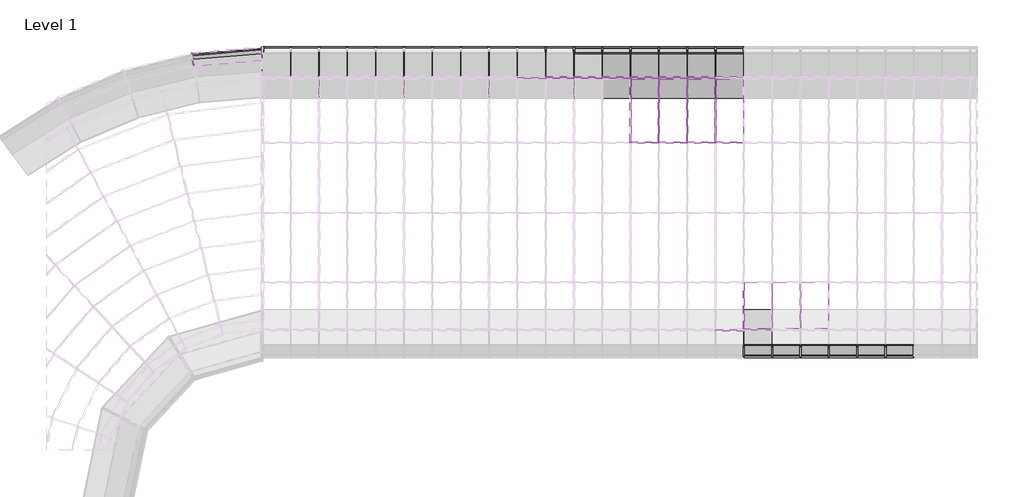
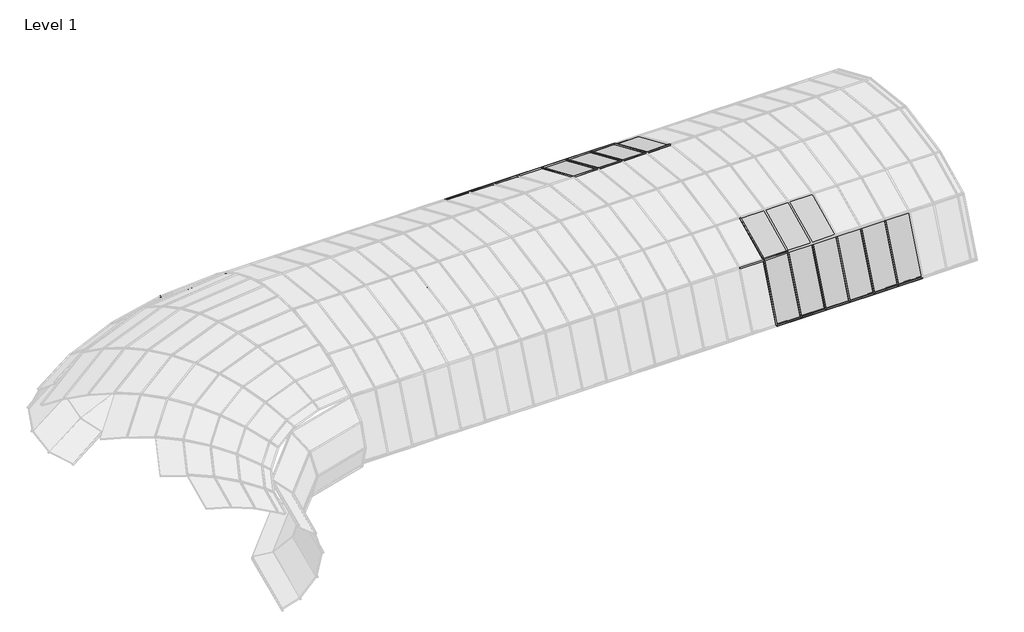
# One storey, part 20 of 23: 91 members, 27 plates.
"""IFC4 building model written with IfcOpenShell, lengths in millimetres."""

from ifc_helpers import new_model, si_unit, origin, place, context, project, spatial, transform, mapped, element, save
from components import member_11ccf896, member_68981e21, member_3e1f1dd8, member_391bee44, member_a479caf8, member_a09e3960, member_0f8f75f6, member_42213d33, member_14e241b9, member_67cfadff, member_9fdc8c74, system_panel_glazed_51f493bd, system_panel_glazed_a1f64e1d, system_panel_glazed_3957fabc, system_panel_glazed_b572a165, system_panel_glazed_7de0f96e

model = new_model("IFC4")

# Units and contexts
model_context = context("Model", 3, world=origin())
ifc_project = project(units=[si_unit("LENGTHUNIT", "METRE", prefix="MILLI")], contexts=[model_context])

# Site, building, storey
site = spatial("IfcSite", under=ifc_project)
building = spatial("IfcBuilding", under=site)
storey = spatial("IfcBuildingStorey", under=building, Name="Level 1", Elevation=0.0)

# Members
placement = place(None, origin())
member_shape = member_11ccf896(model_context)
element("IfcMember", 1, ObjectType="Rectangular Mullion : 1\" Square", at=placement, inside=storey, context=model_context, shape_type="MappedRepresentation", body=[
    mapped(member_shape, transform((-11421.4484397, 8068.4801793, 1232.5089476), x_axis=(0.01071900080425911, -0.13353091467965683, 0.9909866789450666), y_axis=(-0.07929494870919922, 0.9878091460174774, 0.1339604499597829), z_axis=(-0.9967935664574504, -0.08001616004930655, 0.0))),
])
member_2_shape = member_68981e21(model_context)
element("IfcMember", 2, ObjectType="Rectangular Mullion : 1\" Square", at=placement, inside=storey, context=model_context, shape_type="MappedRepresentation", body=[
    mapped(member_2_shape, transform((450.2500186, 2539.8807303, 0.0), x_axis=(0.0, 0.8307182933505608, -0.5566930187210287), y_axis=(0.0, -0.5566930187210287, -0.8307182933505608), z_axis=(-1.0, 0.0, 0.0))),
])
element("IfcMember", 3, ObjectType="Rectangular Mullion : 1\" Square", at=placement, inside=storey, context=model_context, shape_type="MappedRepresentation", body=[
    mapped(member_2_shape, transform((-3207.3499814, 7543.2525753, 2085.6089632), x_axis=(0.0, 0.9167487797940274, -0.39946423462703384), y_axis=(0.0, 0.39946423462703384, 0.9167487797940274), z_axis=(1.0, 0.0, 0.0))),
])
element("IfcMember", 4, ObjectType="Rectangular Mullion : 1\" Square", at=placement, inside=storey, context=model_context, shape_type="MappedRepresentation", body=[
    mapped(member_2_shape, transform((-2597.7499814, 7543.2525753, 2085.6089632), x_axis=(0.0, 0.9167487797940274, -0.39946423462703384), y_axis=(0.0, 0.39946423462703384, 0.9167487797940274), z_axis=(1.0, 0.0, 0.0))),
])
element("IfcMember", 5, ObjectType="Rectangular Mullion : 1\" Square", at=placement, inside=storey, context=model_context, shape_type="MappedRepresentation", body=[
    mapped(member_2_shape, transform((-1988.1499814, 7543.2525753, 2085.6089632), x_axis=(0.0, 0.9167487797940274, -0.39946423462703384), y_axis=(0.0, 0.39946423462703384, 0.9167487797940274), z_axis=(1.0, 0.0, 0.0))),
])
element("IfcMember", 6, ObjectType="Rectangular Mullion : 1\" Square", at=placement, inside=storey, context=model_context, shape_type="MappedRepresentation", body=[
    mapped(member_2_shape, transform((-1378.5499814, 7543.2525753, 2085.6089632), x_axis=(0.0, 0.9167487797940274, -0.39946423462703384), y_axis=(0.0, 0.39946423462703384, 0.9167487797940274), z_axis=(1.0, 0.0, 0.0))),
])
element("IfcMember", 7, ObjectType="Rectangular Mullion : 1\" Square", at=placement, inside=storey, context=model_context, shape_type="MappedRepresentation", body=[
    mapped(member_2_shape, transform((-768.9499814, 7543.2525753, 2085.6089632), x_axis=(0.0, 0.9167487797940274, -0.39946423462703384), y_axis=(0.0, 0.39946423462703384, 0.9167487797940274), z_axis=(1.0, 0.0, 0.0))),
])
element("IfcMember", 8, ObjectType="Rectangular Mullion : 1\" Square", at=placement, inside=storey, context=model_context, shape_type="MappedRepresentation", body=[
    mapped(member_2_shape, transform((-159.3499814, 7543.2525753, 2085.6089632), x_axis=(0.0, 0.9167487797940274, -0.39946423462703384), y_axis=(0.0, 0.39946423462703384, 0.9167487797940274), z_axis=(1.0, 0.0, 0.0))),
])
element("IfcMember", 9, ObjectType="Rectangular Mullion : 1\" Square", at=placement, inside=storey, context=model_context, shape_type="MappedRepresentation", body=[
    mapped(member_2_shape, transform((450.2500186, 2108.5088854, 2085.6089632), x_axis=(0.0, -0.9009025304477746, -0.4340214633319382), y_axis=(0.0, -0.4340214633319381, 0.9009025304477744), z_axis=(-1.0, 0.0, 0.0))),
])
element("IfcMember", 10, ObjectType="Rectangular Mullion : 1\" Square", at=placement, inside=storey, context=model_context, shape_type="MappedRepresentation", body=[
    mapped(member_2_shape, transform((-3816.9499814, 7543.2525753, 2085.6089632), x_axis=(0.0, 0.9167487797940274, -0.3994642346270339), y_axis=(0.0, 0.3994642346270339, 0.9167487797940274), z_axis=(1.0, 0.0, 0.0))),
])
element("IfcMember", 11, ObjectType="Rectangular Mullion : 1\" Square", at=placement, inside=storey, context=model_context, shape_type="MappedRepresentation", body=[
    mapped(member_2_shape, transform((-1378.5499814, 7111.8807303, 0.0), x_axis=(0.0, -0.713412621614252, -0.7007441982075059), y_axis=(0.0, 0.7007441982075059, -0.713412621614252), z_axis=(1.0, 0.0, 0.0))),
])
element("IfcMember", 12, ObjectType="Rectangular Mullion : 1\" Square", at=placement, inside=storey, context=model_context, shape_type="MappedRepresentation", body=[
    mapped(member_2_shape, transform((-768.9499814, 7111.8807303, 0.0), x_axis=(0.0, -0.713412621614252, -0.7007441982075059), y_axis=(0.0, 0.7007441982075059, -0.713412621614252), z_axis=(1.0, 0.0, 0.0))),
])
element("IfcMember", 13, ObjectType="Rectangular Mullion : 1\" Square", at=placement, inside=storey, context=model_context, shape_type="MappedRepresentation", body=[
    mapped(member_2_shape, transform((-159.3499814, 7111.8807303, 0.0), x_axis=(0.0, -0.713412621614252, -0.7007441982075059), y_axis=(0.0, 0.7007441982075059, -0.713412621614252), z_axis=(1.0, 0.0, 0.0))),
])
element("IfcMember", 14, ObjectType="Rectangular Mullion : 1\" Square", at=placement, inside=storey, context=model_context, shape_type="MappedRepresentation", body=[
    mapped(member_2_shape, transform((-3816.9499814, 7111.8807303, 0.0), x_axis=(0.0, -0.7134126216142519, -0.700744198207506), y_axis=(0.0, 0.700744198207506, -0.7134126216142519), z_axis=(1.0, 0.0, 0.0))),
])
element("IfcMember", 15, ObjectType="Rectangular Mullion : 1\" Square", at=placement, inside=storey, context=model_context, shape_type="MappedRepresentation", body=[
    mapped(member_2_shape, transform((-3207.3499814, 7111.8807303, 0.0), x_axis=(0.0, -0.713412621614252, -0.7007441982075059), y_axis=(0.0, 0.7007441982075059, -0.713412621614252), z_axis=(1.0, 0.0, 0.0))),
])
element("IfcMember", 16, ObjectType="Rectangular Mullion : 1\" Square", at=placement, inside=storey, context=model_context, shape_type="MappedRepresentation", body=[
    mapped(member_2_shape, transform((-2597.7499814, 7111.8807303, 0.0), x_axis=(0.0, -0.713412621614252, -0.7007441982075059), y_axis=(0.0, 0.7007441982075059, -0.713412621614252), z_axis=(1.0, 0.0, 0.0))),
])
element("IfcMember", 17, ObjectType="Rectangular Mullion : 1\" Square", at=placement, inside=storey, context=model_context, shape_type="MappedRepresentation", body=[
    mapped(member_2_shape, transform((-1988.1499814, 7111.8807303, 0.0), x_axis=(0.0, -0.713412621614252, -0.7007441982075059), y_axis=(0.0, 0.7007441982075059, -0.713412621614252), z_axis=(1.0, 0.0, 0.0))),
])
member_3_shape = member_3e1f1dd8(model_context)
element("IfcMember", 18, ObjectType="Rectangular Mullion : 1\" Square", at=placement, inside=storey, context=model_context, shape_type="MappedRepresentation", body=[
    mapped(member_3_shape, transform((450.2500186, 1534.1192339, 673.9955146), x_axis=(0.0, 0.38018576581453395, -0.9249101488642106), y_axis=(0.0, -0.9249101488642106, -0.38018576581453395), z_axis=(-1.0, 0.0, 0.0))),
])
element("IfcMember", 19, ObjectType="Rectangular Mullion : 1\" Square", at=placement, inside=storey, context=model_context, shape_type="MappedRepresentation", body=[
    mapped(member_3_shape, transform((1059.8500186, 1534.1192339, 673.9955146), x_axis=(0.0, 0.38018576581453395, -0.9249101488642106), y_axis=(0.0, -0.9249101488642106, -0.38018576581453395), z_axis=(-1.0, 0.0, 0.0))),
])
element("IfcMember", 20, ObjectType="Rectangular Mullion : 1\" Square", at=placement, inside=storey, context=model_context, shape_type="MappedRepresentation", body=[
    mapped(member_3_shape, transform((1669.4500186, 1534.1192339, 673.9955146), x_axis=(0.0, 0.38018576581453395, -0.9249101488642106), y_axis=(0.0, -0.9249101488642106, -0.38018576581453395), z_axis=(-1.0, 0.0, 0.0))),
])
element("IfcMember", 21, ObjectType="Rectangular Mullion : 1\" Square", at=placement, inside=storey, context=model_context, shape_type="MappedRepresentation", body=[
    mapped(member_3_shape, transform((2279.0500186, 1534.1192339, 673.9955146), x_axis=(0.0, 0.38018576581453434, -0.9249101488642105), y_axis=(0.0, -0.9249101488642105, -0.38018576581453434), z_axis=(-1.0, 0.0, 0.0))),
])
element("IfcMember", 22, ObjectType="Rectangular Mullion : 1\" Square", at=placement, inside=storey, context=model_context, shape_type="MappedRepresentation", body=[
    mapped(member_3_shape, transform((2888.6500186, 1534.1192339, 673.9955146), x_axis=(0.0, 0.38018576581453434, -0.9249101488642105), y_axis=(0.0, -0.9249101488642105, -0.38018576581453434), z_axis=(-1.0, 0.0, 0.0))),
])
element("IfcMember", 23, ObjectType="Rectangular Mullion : 1\" Square", at=placement, inside=storey, context=model_context, shape_type="MappedRepresentation", body=[
    mapped(member_3_shape, transform((3498.2500186, 1534.1192339, 673.9955146), x_axis=(0.0, 0.38018576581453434, -0.9249101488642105), y_axis=(0.0, -0.9249101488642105, -0.38018576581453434), z_axis=(-1.0, 0.0, 0.0))),
])
element("IfcMember", 24, ObjectType="Rectangular Mullion : 1\" Square", at=placement, inside=storey, context=model_context, shape_type="MappedRepresentation", body=[
    mapped(member_2_shape, transform((450.2500186, 2108.5088854, 2085.6089632), x_axis=(0.0, 0.37689609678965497, 0.9262555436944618), y_axis=(0.0, -0.9262555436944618, 0.37689609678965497), z_axis=(1.0, 0.0, 0.0))),
])
element("IfcMember", 25, ObjectType="Rectangular Mullion : 1\" Square", at=placement, inside=storey, context=model_context, shape_type="MappedRepresentation", body=[
    mapped(member_2_shape, transform((-3816.9499814, 7543.2525753, 2085.6089632), x_axis=(0.0, -0.5417212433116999, 0.8405582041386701), y_axis=(0.0, 0.8405582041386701, 0.5417212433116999), z_axis=(-1.0, 0.0, 0.0))),
])
element("IfcMember", 26, ObjectType="Rectangular Mullion : 1\" Square", at=placement, inside=storey, context=model_context, shape_type="MappedRepresentation", body=[
    mapped(member_2_shape, transform((-3207.3499814, 7543.2525753, 2085.6089632), x_axis=(0.0, -0.5417212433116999, 0.8405582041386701), y_axis=(0.0, 0.8405582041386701, 0.5417212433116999), z_axis=(-1.0, 0.0, 0.0))),
])
element("IfcMember", 27, ObjectType="Rectangular Mullion : 1\" Square", at=placement, inside=storey, context=model_context, shape_type="MappedRepresentation", body=[
    mapped(member_2_shape, transform((-2597.7499814, 7543.2525753, 2085.6089632), x_axis=(0.0, -0.5417212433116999, 0.8405582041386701), y_axis=(0.0, 0.8405582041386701, 0.5417212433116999), z_axis=(-1.0, 0.0, 0.0))),
])
element("IfcMember", 28, ObjectType="Rectangular Mullion : 1\" Square", at=placement, inside=storey, context=model_context, shape_type="MappedRepresentation", body=[
    mapped(member_2_shape, transform((-1988.1499814, 7543.2525753, 2085.6089632), x_axis=(0.0, -0.5417212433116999, 0.8405582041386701), y_axis=(0.0, 0.8405582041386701, 0.5417212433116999), z_axis=(-1.0, 0.0, 0.0))),
])
element("IfcMember", 29, ObjectType="Rectangular Mullion : 1\" Square", at=placement, inside=storey, context=model_context, shape_type="MappedRepresentation", body=[
    mapped(member_2_shape, transform((-1378.5499814, 7543.2525753, 2085.6089632), x_axis=(0.0, -0.5417212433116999, 0.8405582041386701), y_axis=(0.0, 0.8405582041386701, 0.5417212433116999), z_axis=(-1.0, 0.0, 0.0))),
])
element("IfcMember", 30, ObjectType="Rectangular Mullion : 1\" Square", at=placement, inside=storey, context=model_context, shape_type="MappedRepresentation", body=[
    mapped(member_2_shape, transform((-768.9499814, 7543.2525753, 2085.6089632), x_axis=(0.0, -0.5417212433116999, 0.8405582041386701), y_axis=(0.0, 0.8405582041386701, 0.5417212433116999), z_axis=(-1.0, 0.0, 0.0))),
])
element("IfcMember", 31, ObjectType="Rectangular Mullion : 1\" Square", at=placement, inside=storey, context=model_context, shape_type="MappedRepresentation", body=[
    mapped(member_2_shape, transform((-159.3499814, 7543.2525753, 2085.6089632), x_axis=(0.0, -0.5417212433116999, 0.8405582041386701), y_axis=(0.0, 0.8405582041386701, 0.5417212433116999), z_axis=(-1.0, 0.0, 0.0))),
])
element("IfcMember", 32, ObjectType="Rectangular Mullion : 1\" Square", at=placement, inside=storey, context=model_context, shape_type="MappedRepresentation", body=[
    mapped(member_3_shape, transform((-1988.1499814, 6146.1274349, 2694.3924567), x_axis=(0.0, -0.9660596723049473, 0.25831900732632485), y_axis=(0.0, 0.25831900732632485, 0.9660596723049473), z_axis=(-1.0, 0.0, 0.0))),
])
element("IfcMember", 33, ObjectType="Rectangular Mullion : 1\" Square", at=placement, inside=storey, context=model_context, shape_type="MappedRepresentation", body=[
    mapped(member_3_shape, transform((-1378.5499814, 6146.1274349, 2694.3924567), x_axis=(0.0, -0.9660596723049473, 0.25831900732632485), y_axis=(0.0, 0.25831900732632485, 0.9660596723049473), z_axis=(-1.0, 0.0, 0.0))),
])
element("IfcMember", 34, ObjectType="Rectangular Mullion : 1\" Square", at=placement, inside=storey, context=model_context, shape_type="MappedRepresentation", body=[
    mapped(member_3_shape, transform((-768.9499814, 6146.1274349, 2694.3924567), x_axis=(0.0, -0.9660596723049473, 0.25831900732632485), y_axis=(0.0, 0.25831900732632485, 0.9660596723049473), z_axis=(-1.0, 0.0, 0.0))),
])
element("IfcMember", 35, ObjectType="Rectangular Mullion : 1\" Square", at=placement, inside=storey, context=model_context, shape_type="MappedRepresentation", body=[
    mapped(member_3_shape, transform((-159.3499814, 6146.1274349, 2694.3924567), x_axis=(0.0, -0.9660596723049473, 0.25831900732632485), y_axis=(0.0, 0.25831900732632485, 0.9660596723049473), z_axis=(-1.0, 0.0, 0.0))),
])
element("IfcMember", 36, ObjectType="Rectangular Mullion : 1\" Square", at=placement, inside=storey, context=model_context, shape_type="MappedRepresentation", body=[
    mapped(member_3_shape, transform((-9303.3499814, 8199.1215657, 1067.9341581), x_axis=(0.0, 0.017915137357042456, 0.9998395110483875), y_axis=(0.0, 0.9998395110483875, -0.017915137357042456), z_axis=(-1.0, 0.0, 0.0))),
])
element("IfcMember", 37, ObjectType="Rectangular Mullion : 1\" Square", at=placement, inside=storey, context=model_context, shape_type="MappedRepresentation", body=[
    mapped(member_3_shape, transform((-8693.7499814, 8199.1215657, 1067.9341581), x_axis=(0.0, 0.017915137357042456, 0.9998395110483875), y_axis=(0.0, 0.9998395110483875, -0.017915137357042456), z_axis=(-1.0, 0.0, 0.0))),
])
element("IfcMember", 38, ObjectType="Rectangular Mullion : 1\" Square", at=placement, inside=storey, context=model_context, shape_type="MappedRepresentation", body=[
    mapped(member_3_shape, transform((-8084.1499814, 8199.1215657, 1067.9341581), x_axis=(0.0, 0.017915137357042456, 0.9998395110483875), y_axis=(0.0, 0.9998395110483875, -0.017915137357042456), z_axis=(-1.0, 0.0, 0.0))),
])
element("IfcMember", 39, ObjectType="Rectangular Mullion : 1\" Square", at=placement, inside=storey, context=model_context, shape_type="MappedRepresentation", body=[
    mapped(member_3_shape, transform((-7474.5499814, 8199.1215657, 1067.9341581), x_axis=(0.0, 0.017915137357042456, 0.9998395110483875), y_axis=(0.0, 0.9998395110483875, -0.017915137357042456), z_axis=(-1.0, 0.0, 0.0))),
])
element("IfcMember", 40, ObjectType="Rectangular Mullion : 1\" Square", at=placement, inside=storey, context=model_context, shape_type="MappedRepresentation", body=[
    mapped(member_3_shape, transform((-6864.9499814, 8199.1215657, 1067.9341581), x_axis=(0.0, 0.017915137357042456, 0.9998395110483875), y_axis=(0.0, 0.9998395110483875, -0.017915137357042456), z_axis=(-1.0, 0.0, 0.0))),
])
element("IfcMember", 41, ObjectType="Rectangular Mullion : 1\" Square", at=placement, inside=storey, context=model_context, shape_type="MappedRepresentation", body=[
    mapped(member_3_shape, transform((-6255.3499814, 8199.1215657, 1067.9341581), x_axis=(0.0, 0.017915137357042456, 0.9998395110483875), y_axis=(0.0, 0.9998395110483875, -0.017915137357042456), z_axis=(-1.0, 0.0, 0.0))),
])
element("IfcMember", 42, ObjectType="Rectangular Mullion : 1\" Square", at=placement, inside=storey, context=model_context, shape_type="MappedRepresentation", body=[
    mapped(member_3_shape, transform((-5645.7499814, 8199.1215657, 1067.9341581), x_axis=(0.0, 0.017915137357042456, 0.9998395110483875), y_axis=(0.0, 0.9998395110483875, -0.017915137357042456), z_axis=(-1.0, 0.0, 0.0))),
])
element("IfcMember", 43, ObjectType="Rectangular Mullion : 1\" Square", at=placement, inside=storey, context=model_context, shape_type="MappedRepresentation", body=[
    mapped(member_3_shape, transform((-5036.1499814, 8199.1215657, 1067.9341581), x_axis=(0.0, 0.017915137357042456, 0.9998395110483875), y_axis=(0.0, 0.9998395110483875, -0.017915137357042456), z_axis=(-1.0, 0.0, 0.0))),
])
element("IfcMember", 44, ObjectType="Rectangular Mullion : 1\" Square", at=placement, inside=storey, context=model_context, shape_type="MappedRepresentation", body=[
    mapped(member_3_shape, transform((-4426.5499814, 8199.1215657, 1067.9341581), x_axis=(0.0, 0.017915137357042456, 0.9998395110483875), y_axis=(0.0, 0.9998395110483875, -0.017915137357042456), z_axis=(-1.0, 0.0, 0.0))),
])
element("IfcMember", 45, ObjectType="Rectangular Mullion : 1\" Square", at=placement, inside=storey, context=model_context, shape_type="MappedRepresentation", body=[
    mapped(member_3_shape, transform((-3816.9499814, 8199.1215657, 1067.9341581), x_axis=(0.0, 0.017915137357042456, 0.9998395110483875), y_axis=(0.0, 0.9998395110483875, -0.017915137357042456), z_axis=(-1.0, 0.0, 0.0))),
])
element("IfcMember", 46, ObjectType="Rectangular Mullion : 1\" Square", at=placement, inside=storey, context=model_context, shape_type="MappedRepresentation", body=[
    mapped(member_3_shape, transform((-3207.3499814, 8199.1215657, 1067.9341581), x_axis=(0.0, 0.017915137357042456, 0.9998395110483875), y_axis=(0.0, 0.9998395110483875, -0.017915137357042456), z_axis=(-1.0, 0.0, 0.0))),
])
element("IfcMember", 47, ObjectType="Rectangular Mullion : 1\" Square", at=placement, inside=storey, context=model_context, shape_type="MappedRepresentation", body=[
    mapped(member_3_shape, transform((-2597.7499814, 8199.1215657, 1067.9341581), x_axis=(0.0, 0.017915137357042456, 0.9998395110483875), y_axis=(0.0, 0.9998395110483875, -0.017915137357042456), z_axis=(-1.0, 0.0, 0.0))),
])
element("IfcMember", 48, ObjectType="Rectangular Mullion : 1\" Square", at=placement, inside=storey, context=model_context, shape_type="MappedRepresentation", body=[
    mapped(member_3_shape, transform((-1988.1499814, 8199.1215657, 1067.9341581), x_axis=(0.0, 0.017915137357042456, 0.9998395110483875), y_axis=(0.0, 0.9998395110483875, -0.017915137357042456), z_axis=(-1.0, 0.0, 0.0))),
])
element("IfcMember", 49, ObjectType="Rectangular Mullion : 1\" Square", at=placement, inside=storey, context=model_context, shape_type="MappedRepresentation", body=[
    mapped(member_3_shape, transform((-1378.5499814, 8199.1215657, 1067.9341581), x_axis=(0.0, 0.017915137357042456, 0.9998395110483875), y_axis=(0.0, 0.9998395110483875, -0.017915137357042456), z_axis=(-1.0, 0.0, 0.0))),
])
element("IfcMember", 50, ObjectType="Rectangular Mullion : 1\" Square", at=placement, inside=storey, context=model_context, shape_type="MappedRepresentation", body=[
    mapped(member_3_shape, transform((-768.9499814, 8199.1215657, 1067.9341581), x_axis=(0.0, 0.017915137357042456, 0.9998395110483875), y_axis=(0.0, 0.9998395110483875, -0.017915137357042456), z_axis=(-1.0, 0.0, 0.0))),
])
element("IfcMember", 51, ObjectType="Rectangular Mullion : 1\" Square", at=placement, inside=storey, context=model_context, shape_type="MappedRepresentation", body=[
    mapped(member_3_shape, transform((-159.3499814, 8199.1215657, 1067.9341581), x_axis=(0.0, 0.017915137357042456, 0.9998395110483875), y_axis=(0.0, 0.9998395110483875, -0.017915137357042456), z_axis=(-1.0, 0.0, 0.0))),
])
element("IfcMember", 52, ObjectType="Rectangular Mullion : 1\" Square", at=placement, inside=storey, context=model_context, shape_type="MappedRepresentation", body=[
    mapped(member_3_shape, transform((-9912.9499814, 8199.1215657, 1067.9341581), x_axis=(0.0, 0.017915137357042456, 0.9998395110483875), y_axis=(0.0, 0.9998395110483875, -0.017915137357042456), z_axis=(-1.0, 0.0, 0.0))),
])
member_4_shape = member_391bee44(model_context)
element("IfcMember", 53, ObjectType="Rectangular Mullion : 1\" Square", at=placement, inside=storey, context=model_context, shape_type="MappedRepresentation", body=[
    mapped(member_4_shape, transform((-11434.107718, 8067.4639741, 1232.5089476), x_axis=(-0.9871948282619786, -0.15951918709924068, 0.0), y_axis=(-0.14578933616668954, 0.9022267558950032, 0.40587233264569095), z_axis=(-0.0647444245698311, 0.4006750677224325, -0.9139297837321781))),
])
member_5_shape = member_a479caf8(model_context)
element("IfcMember", 54, ObjectType="Rectangular Mullion : 1\" Square", at=placement, inside=storey, context=model_context, shape_type="MappedRepresentation", body=[
    mapped(member_5_shape, transform((-9912.9499814, 8098.3092895, 629.7792003), x_axis=(0.9981790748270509, 0.0454093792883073, -0.03970545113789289), y_axis=(-0.060320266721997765, 0.7514338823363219, -0.6570453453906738), z_axis=(0.0, 0.6582439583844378, 0.7528046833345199))),
])
member_6_shape = member_a09e3960(model_context)
element("IfcMember", 55, ObjectType="Rectangular Mullion : 1\" Square", at=placement, inside=storey, context=model_context, shape_type="MappedRepresentation", body=[
    mapped(member_6_shape, transform((-9912.9499814, 8189.5727086, 1232.5089476), x_axis=(0.9968650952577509, 0.07822835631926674, -0.011845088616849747), y_axis=(-0.07912004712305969, 0.9856303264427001, -0.14924100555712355), z_axis=(0.0, 0.14971033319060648, 0.9887299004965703))),
])
member_7_shape = member_0f8f75f6(model_context)
element("IfcMember", 56, ObjectType="Rectangular Mullion : 1\" Square", at=placement, inside=storey, context=model_context, shape_type="MappedRepresentation", body=[
    mapped(member_7_shape, transform((450.2500186, 2518.7804857, 14.1400027), x_axis=(0.9999999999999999, 0.0, 0.0), y_axis=(0.0, -0.5566930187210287, -0.8307182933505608), z_axis=(0.0, 0.8307182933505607, -0.5566930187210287))),
])
member_8_shape = member_42213d33(model_context)
element("IfcMember", 57, ObjectType="Rectangular Mullion : 1\" Square", at=placement, inside=storey, context=model_context, shape_type="MappedRepresentation", body=[
    mapped(member_8_shape, transform((450.2500186, 1538.9058143, 685.75896), x_axis=(0.9999999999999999, 0.0, 0.0), y_axis=(0.0, -0.9262555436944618, 0.37689609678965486), z_axis=(0.0, -0.3768960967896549, -0.926255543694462))),
])
element("IfcMember", 58, ObjectType="Rectangular Mullion : 1\" Square", at=placement, inside=storey, context=model_context, shape_type="MappedRepresentation", body=[
    mapped(member_8_shape, transform((1059.8500186, 1538.9058143, 685.75896), x_axis=(0.9999999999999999, 0.0, 0.0), y_axis=(0.0, -0.9262555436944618, 0.37689609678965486), z_axis=(0.0, -0.3768960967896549, -0.926255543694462))),
])
element("IfcMember", 59, ObjectType="Rectangular Mullion : 1\" Square", at=placement, inside=storey, context=model_context, shape_type="MappedRepresentation", body=[
    mapped(member_8_shape, transform((1669.4500186, 1538.9058143, 685.75896), x_axis=(0.9999999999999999, 0.0, 0.0), y_axis=(0.0, -0.9262555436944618, 0.37689609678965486), z_axis=(0.0, -0.3768960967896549, -0.926255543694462))),
])
element("IfcMember", 60, ObjectType="Rectangular Mullion : 1\" Square", at=placement, inside=storey, context=model_context, shape_type="MappedRepresentation", body=[
    mapped(member_8_shape, transform((2279.0500186, 1538.9058143, 685.75896), x_axis=(1.0, 0.0, 0.0), y_axis=(0.0, -0.9262555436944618, 0.37689609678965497), z_axis=(0.0, -0.37689609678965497, -0.9262555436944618))),
])
element("IfcMember", 61, ObjectType="Rectangular Mullion : 1\" Square", at=placement, inside=storey, context=model_context, shape_type="MappedRepresentation", body=[
    mapped(member_8_shape, transform((2888.6500186, 1538.9058143, 685.75896), x_axis=(1.0, 0.0, 0.0), y_axis=(0.0, -0.9262555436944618, 0.37689609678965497), z_axis=(0.0, -0.37689609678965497, -0.9262555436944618))),
])
element("IfcMember", 62, ObjectType="Rectangular Mullion : 1\" Square", at=placement, inside=storey, context=model_context, shape_type="MappedRepresentation", body=[
    mapped(member_8_shape, transform((3498.2500186, 1538.9058143, 685.75896), x_axis=(1.0, 0.0, 0.0), y_axis=(0.0, -0.9262555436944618, 0.37689609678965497), z_axis=(0.0, -0.37689609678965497, -0.9262555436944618))),
])
member_9_shape = member_14e241b9(model_context)
element("IfcMember", 63, ObjectType="Rectangular Mullion : 1\" Square", at=placement, inside=storey, context=model_context, shape_type="MappedRepresentation", body=[
    mapped(member_9_shape, transform((450.2500186, 2131.3918096, 2096.6331083), x_axis=(1.0, 0.0, 0.0), y_axis=(0.0, -0.4340214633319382, 0.9009025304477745), z_axis=(0.0, -0.9009025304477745, -0.4340214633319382))),
])
member_10_shape = member_67cfadff(model_context)
element("IfcMember", 64, ObjectType="Rectangular Mullion : 1\" Square", at=placement, inside=storey, context=model_context, shape_type="MappedRepresentation", body=[
    mapped(member_10_shape, transform((-1988.1499814, 6157.7701444, 2689.3192609), x_axis=(0.9999999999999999, 0.0, 0.0), y_axis=(0.0, 0.39946423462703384, 0.9167487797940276), z_axis=(0.0, -0.9167487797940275, 0.3994642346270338))),
])
element("IfcMember", 65, ObjectType="Rectangular Mullion : 1\" Square", at=placement, inside=storey, context=model_context, shape_type="MappedRepresentation", body=[
    mapped(member_10_shape, transform((-1378.5499814, 6157.7701444, 2689.3192609), x_axis=(0.9999999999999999, 0.0, 0.0), y_axis=(0.0, 0.39946423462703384, 0.9167487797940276), z_axis=(0.0, -0.9167487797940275, 0.3994642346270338))),
])
element("IfcMember", 66, ObjectType="Rectangular Mullion : 1\" Square", at=placement, inside=storey, context=model_context, shape_type="MappedRepresentation", body=[
    mapped(member_10_shape, transform((-768.9499814, 6157.7701444, 2689.3192609), x_axis=(0.9999999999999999, 0.0, 0.0), y_axis=(0.0, 0.39946423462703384, 0.9167487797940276), z_axis=(0.0, -0.9167487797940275, 0.3994642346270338))),
])
element("IfcMember", 67, ObjectType="Rectangular Mullion : 1\" Square", at=placement, inside=storey, context=model_context, shape_type="MappedRepresentation", body=[
    mapped(member_10_shape, transform((-159.3499814, 6157.7701444, 2689.3192609), x_axis=(0.9999999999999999, 0.0, 0.0), y_axis=(0.0, 0.39946423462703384, 0.9167487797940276), z_axis=(0.0, -0.9167487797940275, 0.3994642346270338))),
])
element("IfcMember", 68, ObjectType="Rectangular Mullion : 1\" Square", at=placement, inside=storey, context=model_context, shape_type="MappedRepresentation", body=[
    mapped(member_8_shape, transform((-3207.3499814, 8190.0612254, 1059.0347068), x_axis=(1.0, 0.0, 0.0), y_axis=(0.0, 0.7007441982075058, -0.713412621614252), z_axis=(0.0, 0.713412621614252, 0.7007441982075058))),
])
element("IfcMember", 69, ObjectType="Rectangular Mullion : 1\" Square", at=placement, inside=storey, context=model_context, shape_type="MappedRepresentation", body=[
    mapped(member_8_shape, transform((-2597.7499814, 8190.0612254, 1059.0347068), x_axis=(1.0, 0.0, 0.0), y_axis=(0.0, 0.7007441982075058, -0.713412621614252), z_axis=(0.0, 0.713412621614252, 0.7007441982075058))),
])
element("IfcMember", 70, ObjectType="Rectangular Mullion : 1\" Square", at=placement, inside=storey, context=model_context, shape_type="MappedRepresentation", body=[
    mapped(member_8_shape, transform((-1988.1499814, 8190.0612254, 1059.0347068), x_axis=(1.0, 0.0, 0.0), y_axis=(0.0, 0.7007441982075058, -0.713412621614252), z_axis=(0.0, 0.713412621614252, 0.7007441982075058))),
])
element("IfcMember", 71, ObjectType="Rectangular Mullion : 1\" Square", at=placement, inside=storey, context=model_context, shape_type="MappedRepresentation", body=[
    mapped(member_8_shape, transform((-1378.5499814, 8190.0612254, 1059.0347068), x_axis=(1.0, 0.0, 0.0), y_axis=(0.0, 0.7007441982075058, -0.713412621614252), z_axis=(0.0, 0.713412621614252, 0.7007441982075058))),
])
element("IfcMember", 72, ObjectType="Rectangular Mullion : 1\" Square", at=placement, inside=storey, context=model_context, shape_type="MappedRepresentation", body=[
    mapped(member_8_shape, transform((-768.9499814, 8190.0612254, 1059.0347068), x_axis=(1.0, 0.0, 0.0), y_axis=(0.0, 0.7007441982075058, -0.713412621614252), z_axis=(0.0, 0.713412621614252, 0.7007441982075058))),
])
element("IfcMember", 73, ObjectType="Rectangular Mullion : 1\" Square", at=placement, inside=storey, context=model_context, shape_type="MappedRepresentation", body=[
    mapped(member_8_shape, transform((-159.3499814, 8190.0612254, 1059.0347068), x_axis=(1.0, 0.0, 0.0), y_axis=(0.0, 0.7007441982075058, -0.713412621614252), z_axis=(0.0, 0.713412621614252, 0.7007441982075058))),
])
element("IfcMember", 74, ObjectType="Rectangular Mullion : 1\" Square", at=placement, inside=storey, context=model_context, shape_type="MappedRepresentation", body=[
    mapped(member_8_shape, transform((-6255.3499814, 8190.0612254, 1059.0347068), x_axis=(1.0, 0.0, 0.0), y_axis=(0.0, 0.7007441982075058, -0.713412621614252), z_axis=(0.0, 0.713412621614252, 0.7007441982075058))),
])
element("IfcMember", 75, ObjectType="Rectangular Mullion : 1\" Square", at=placement, inside=storey, context=model_context, shape_type="MappedRepresentation", body=[
    mapped(member_8_shape, transform((-6864.9499814, 8190.0612254, 1059.0347068), x_axis=(1.0, 0.0, 0.0), y_axis=(0.0, 0.7007441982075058, -0.713412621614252), z_axis=(0.0, 0.713412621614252, 0.7007441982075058))),
])
element("IfcMember", 76, ObjectType="Rectangular Mullion : 1\" Square", at=placement, inside=storey, context=model_context, shape_type="MappedRepresentation", body=[
    mapped(member_8_shape, transform((-7474.5499814, 8190.0612254, 1059.0347068), x_axis=(1.0, 0.0, 0.0), y_axis=(0.0, 0.7007441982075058, -0.713412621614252), z_axis=(0.0, 0.713412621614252, 0.7007441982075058))),
])
element("IfcMember", 77, ObjectType="Rectangular Mullion : 1\" Square", at=placement, inside=storey, context=model_context, shape_type="MappedRepresentation", body=[
    mapped(member_8_shape, transform((-8084.1499814, 8190.0612254, 1059.0347068), x_axis=(1.0, 0.0, 0.0), y_axis=(0.0, 0.7007441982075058, -0.713412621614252), z_axis=(0.0, 0.713412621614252, 0.7007441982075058))),
])
element("IfcMember", 78, ObjectType="Rectangular Mullion : 1\" Square", at=placement, inside=storey, context=model_context, shape_type="MappedRepresentation", body=[
    mapped(member_8_shape, transform((-9303.3499814, 8190.0612254, 1059.0347068), x_axis=(1.0, 0.0, 0.0), y_axis=(0.0, 0.7007441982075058, -0.713412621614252), z_axis=(0.0, 0.713412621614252, 0.7007441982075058))),
])
element("IfcMember", 79, ObjectType="Rectangular Mullion : 1\" Square", at=placement, inside=storey, context=model_context, shape_type="MappedRepresentation", body=[
    mapped(member_8_shape, transform((-8693.7499814, 8190.0612254, 1059.0347068), x_axis=(1.0, 0.0, 0.0), y_axis=(0.0, 0.7007441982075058, -0.713412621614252), z_axis=(0.0, 0.713412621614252, 0.7007441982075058))),
])
element("IfcMember", 80, ObjectType="Rectangular Mullion : 1\" Square", at=placement, inside=storey, context=model_context, shape_type="MappedRepresentation", body=[
    mapped(member_8_shape, transform((-3816.9499814, 8190.0612254, 1059.0347068), x_axis=(1.0, 0.0, 0.0), y_axis=(0.0, 0.700744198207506, -0.7134126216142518), z_axis=(0.0, 0.7134126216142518, 0.700744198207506))),
])
element("IfcMember", 81, ObjectType="Rectangular Mullion : 1\" Square", at=placement, inside=storey, context=model_context, shape_type="MappedRepresentation", body=[
    mapped(member_8_shape, transform((-4426.5499814, 8190.0612254, 1059.0347068), x_axis=(1.0, 0.0, 0.0), y_axis=(0.0, 0.7007441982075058, -0.713412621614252), z_axis=(0.0, 0.713412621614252, 0.7007441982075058))),
])
element("IfcMember", 82, ObjectType="Rectangular Mullion : 1\" Square", at=placement, inside=storey, context=model_context, shape_type="MappedRepresentation", body=[
    mapped(member_8_shape, transform((-5036.1499814, 8190.0612254, 1059.0347068), x_axis=(1.0, 0.0, 0.0), y_axis=(0.0, 0.7007441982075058, -0.713412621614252), z_axis=(0.0, 0.713412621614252, 0.7007441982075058))),
])
element("IfcMember", 83, ObjectType="Rectangular Mullion : 1\" Square", at=placement, inside=storey, context=model_context, shape_type="MappedRepresentation", body=[
    mapped(member_8_shape, transform((-5645.7499814, 8190.0612254, 1059.0347068), x_axis=(1.0, 0.0, 0.0), y_axis=(0.0, 0.7007441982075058, -0.713412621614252), z_axis=(0.0, 0.713412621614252, 0.7007441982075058))),
])
element("IfcMember", 84, ObjectType="Rectangular Mullion : 1\" Square", at=placement, inside=storey, context=model_context, shape_type="MappedRepresentation", body=[
    mapped(member_7_shape, transform((-3207.3499814, 7557.0122949, 2064.2587848), x_axis=(0.9999999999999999, 0.0, 0.0), y_axis=(0.0, 0.8405582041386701, 0.5417212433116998), z_axis=(0.0, -0.5417212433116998, 0.84055820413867))),
])
element("IfcMember", 85, ObjectType="Rectangular Mullion : 1\" Square", at=placement, inside=storey, context=model_context, shape_type="MappedRepresentation", body=[
    mapped(member_7_shape, transform((-2597.7499814, 7557.0122949, 2064.2587848), x_axis=(0.9999999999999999, 0.0, 0.0), y_axis=(0.0, 0.8405582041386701, 0.5417212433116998), z_axis=(0.0, -0.5417212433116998, 0.84055820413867))),
])
element("IfcMember", 86, ObjectType="Rectangular Mullion : 1\" Square", at=placement, inside=storey, context=model_context, shape_type="MappedRepresentation", body=[
    mapped(member_7_shape, transform((-1988.1499814, 7557.0122949, 2064.2587848), x_axis=(0.9999999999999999, 0.0, 0.0), y_axis=(0.0, 0.8405582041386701, 0.5417212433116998), z_axis=(0.0, -0.5417212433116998, 0.84055820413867))),
])
element("IfcMember", 87, ObjectType="Rectangular Mullion : 1\" Square", at=placement, inside=storey, context=model_context, shape_type="MappedRepresentation", body=[
    mapped(member_7_shape, transform((-1378.5499814, 7557.0122949, 2064.2587848), x_axis=(0.9999999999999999, 0.0, 0.0), y_axis=(0.0, 0.8405582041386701, 0.5417212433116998), z_axis=(0.0, -0.5417212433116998, 0.84055820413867))),
])
element("IfcMember", 88, ObjectType="Rectangular Mullion : 1\" Square", at=placement, inside=storey, context=model_context, shape_type="MappedRepresentation", body=[
    mapped(member_7_shape, transform((-768.9499814, 7557.0122949, 2064.2587848), x_axis=(0.9999999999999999, 0.0, 0.0), y_axis=(0.0, 0.8405582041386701, 0.5417212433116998), z_axis=(0.0, -0.5417212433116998, 0.84055820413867))),
])
element("IfcMember", 89, ObjectType="Rectangular Mullion : 1\" Square", at=placement, inside=storey, context=model_context, shape_type="MappedRepresentation", body=[
    mapped(member_7_shape, transform((-159.3499814, 7557.0122949, 2064.2587848), x_axis=(0.9999999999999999, 0.0, 0.0), y_axis=(0.0, 0.8405582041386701, 0.5417212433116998), z_axis=(0.0, -0.5417212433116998, 0.84055820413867))),
])
element("IfcMember", 90, ObjectType="Rectangular Mullion : 1\" Square", at=placement, inside=storey, context=model_context, shape_type="MappedRepresentation", body=[
    mapped(member_7_shape, transform((-3816.9499814, 7557.0122949, 2064.2587848), x_axis=(1.0, 0.0, 0.0), y_axis=(0.0, 0.8405582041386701, 0.5417212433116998), z_axis=(0.0, -0.5417212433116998, 0.8405582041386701))),
])
member_11_shape = member_9fdc8c74(model_context)
element("IfcMember", 91, ObjectType="Rectangular Mullion : 1\" Square", at=placement, inside=storey, context=model_context, shape_type="MappedRepresentation", body=[
    mapped(member_11_shape, transform((-9912.9499814, 8192.2417059, 1078.6092473), x_axis=(-1.0, 0.0, 0.0), y_axis=(0.0, 0.8405582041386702, 0.5417212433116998), z_axis=(0.0, 0.5417212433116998, -0.8405582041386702))),
])

# Plates
system_panel_glazed_shape = system_panel_glazed_51f493bd(model_context)
element("IfcPlate", 92, ObjectType="System Panel : Glazed", at=placement, inside=storey, context=model_context, shape_type="MappedRepresentation", body=[
    mapped(system_panel_glazed_shape, transform((-1975.4499814, 6838.8686503, 2392.5373078), x_axis=(0.0, -0.9167487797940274, 0.39946423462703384), y_axis=(0.0, -0.39946423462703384, -0.9167487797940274), z_axis=(1.0, 0.0, 0.0))),
])
element("IfcPlate", 93, ObjectType="System Panel : Glazed", at=placement, inside=storey, context=model_context, shape_type="MappedRepresentation", body=[
    mapped(system_panel_glazed_shape, transform((-1365.8499814, 6838.8686503, 2392.5373078), x_axis=(0.0, -0.9167487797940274, 0.39946423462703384), y_axis=(0.0, -0.39946423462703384, -0.9167487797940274), z_axis=(1.0, 0.0, 0.0))),
])
element("IfcPlate", 94, ObjectType="System Panel : Glazed", at=placement, inside=storey, context=model_context, shape_type="MappedRepresentation", body=[
    mapped(system_panel_glazed_shape, transform((-756.2499814, 6838.8686503, 2392.5373078), x_axis=(0.0, -0.9167487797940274, 0.39946423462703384), y_axis=(0.0, -0.39946423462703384, -0.9167487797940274), z_axis=(1.0, 0.0, 0.0))),
])
element("IfcPlate", 95, ObjectType="System Panel : Glazed", at=placement, inside=storey, context=model_context, shape_type="MappedRepresentation", body=[
    mapped(system_panel_glazed_shape, transform((-146.6499814, 6838.8686503, 2392.5373078), x_axis=(0.0, -0.9167487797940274, 0.39946423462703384), y_axis=(0.0, -0.39946423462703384, -0.9167487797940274), z_axis=(1.0, 0.0, 0.0))),
])
element("IfcPlate", 96, ObjectType="System Panel : Glazed", at=placement, inside=storey, context=model_context, shape_type="MappedRepresentation", body=[
    mapped(system_panel_glazed_shape, transform((462.9500186, 1818.9207694, 1373.9205162), x_axis=(0.0, -0.37689609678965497, -0.9262555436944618), y_axis=(0.0, 0.9262555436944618, -0.37689609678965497), z_axis=(1.0, 0.0, 0.0))),
])
element("IfcPlate", 97, ObjectType="System Panel : Glazed", at=placement, inside=storey, context=model_context, shape_type="MappedRepresentation", body=[
    mapped(system_panel_glazed_shape, transform((1072.5500186, 1818.9207694, 1373.9205162), x_axis=(0.0, -0.37689609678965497, -0.9262555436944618), y_axis=(0.0, 0.9262555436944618, -0.37689609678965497), z_axis=(1.0, 0.0, 0.0))),
])
element("IfcPlate", 98, ObjectType="System Panel : Glazed", at=placement, inside=storey, context=model_context, shape_type="MappedRepresentation", body=[
    mapped(system_panel_glazed_shape, transform((1682.1500186, 1818.9207694, 1373.9205162), x_axis=(0.0, -0.37689609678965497, -0.9262555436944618), y_axis=(0.0, 0.9262555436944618, -0.37689609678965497), z_axis=(1.0, 0.0, 0.0))),
])
element("IfcPlate", 99, ObjectType="System Panel : Glazed", at=placement, inside=storey, context=model_context, shape_type="MappedRepresentation", body=[
    mapped(system_panel_glazed_shape, transform((2291.7500186, 1818.9207694, 1373.9205162), x_axis=(0.0, -0.37689609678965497, -0.9262555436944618), y_axis=(0.0, 0.9262555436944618, -0.37689609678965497), z_axis=(1.0, 0.0, 0.0))),
])
element("IfcPlate", 100, ObjectType="System Panel : Glazed", at=placement, inside=storey, context=model_context, shape_type="MappedRepresentation", body=[
    mapped(system_panel_glazed_shape, transform((2901.3500186, 1818.9207694, 1373.9205162), x_axis=(0.0, -0.37689609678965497, -0.9262555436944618), y_axis=(0.0, 0.9262555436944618, -0.37689609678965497), z_axis=(1.0, 0.0, 0.0))),
])
element("IfcPlate", 101, ObjectType="System Panel : Glazed", at=placement, inside=storey, context=model_context, shape_type="MappedRepresentation", body=[
    mapped(system_panel_glazed_shape, transform((3510.9500186, 1818.9207694, 1373.9205162), x_axis=(0.0, -0.37689609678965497, -0.9262555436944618), y_axis=(0.0, 0.9262555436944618, -0.37689609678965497), z_axis=(1.0, 0.0, 0.0))),
])
element("IfcPlate", 102, ObjectType="System Panel : Glazed", at=placement, inside=storey, context=model_context, shape_type="MappedRepresentation", body=[
    mapped(system_panel_glazed_shape, transform((-2585.0499814, 7660.0313181, 538.4168047), x_axis=(0.0, 0.713412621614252, 0.7007441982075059), y_axis=(0.0, -0.7007441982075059, 0.713412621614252), z_axis=(1.0, 0.0, 0.0))),
])
element("IfcPlate", 103, ObjectType="System Panel : Glazed", at=placement, inside=storey, context=model_context, shape_type="MappedRepresentation", body=[
    mapped(system_panel_glazed_shape, transform((-1975.4499814, 7660.0313181, 538.4168047), x_axis=(0.0, 0.713412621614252, 0.7007441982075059), y_axis=(0.0, -0.7007441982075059, 0.713412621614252), z_axis=(1.0, 0.0, 0.0))),
])
element("IfcPlate", 104, ObjectType="System Panel : Glazed", at=placement, inside=storey, context=model_context, shape_type="MappedRepresentation", body=[
    mapped(system_panel_glazed_shape, transform((-1365.8499814, 7660.0313181, 538.4168047), x_axis=(0.0, 0.713412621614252, 0.7007441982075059), y_axis=(0.0, -0.7007441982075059, 0.713412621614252), z_axis=(1.0, 0.0, 0.0))),
])
element("IfcPlate", 105, ObjectType="System Panel : Glazed", at=placement, inside=storey, context=model_context, shape_type="MappedRepresentation", body=[
    mapped(system_panel_glazed_shape, transform((-756.2499814, 7660.0313181, 538.4168047), x_axis=(0.0, 0.713412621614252, 0.7007441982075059), y_axis=(0.0, -0.7007441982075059, 0.713412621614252), z_axis=(1.0, 0.0, 0.0))),
])
element("IfcPlate", 106, ObjectType="System Panel : Glazed", at=placement, inside=storey, context=model_context, shape_type="MappedRepresentation", body=[
    mapped(system_panel_glazed_shape, transform((-146.6499814, 7660.0313181, 538.4168047), x_axis=(0.0, 0.713412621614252, 0.7007441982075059), y_axis=(0.0, -0.7007441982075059, 0.713412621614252), z_axis=(1.0, 0.0, 0.0))),
])
system_panel_glazed_2_shape = system_panel_glazed_a1f64e1d(model_context)
element("IfcPlate", 107, ObjectType="System Panel : Glazed", at=placement, inside=storey, context=model_context, shape_type="MappedRepresentation", body=[
    mapped(system_panel_glazed_2_shape, transform((462.9500186, 2627.1613018, 2335.4764828), x_axis=(0.0, -0.9009025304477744, -0.4340214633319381), y_axis=(0.0, 0.4340214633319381, -0.9009025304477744), z_axis=(1.0, 0.0, 0.0))),
])
element("IfcPlate", 108, ObjectType="System Panel : Glazed", at=placement, inside=storey, context=model_context, shape_type="MappedRepresentation", body=[
    mapped(system_panel_glazed_2_shape, transform((1072.5500186, 2627.1613018, 2335.4764828), x_axis=(0.0, -0.9009025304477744, -0.4340214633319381), y_axis=(0.0, 0.4340214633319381, -0.9009025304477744), z_axis=(1.0, 0.0, 0.0))),
])
element("IfcPlate", 109, ObjectType="System Panel : Glazed", at=placement, inside=storey, context=model_context, shape_type="MappedRepresentation", body=[
    mapped(system_panel_glazed_2_shape, transform((1682.1500186, 2627.1613018, 2335.4764828), x_axis=(0.0, -0.9009025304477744, -0.4340214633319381), y_axis=(0.0, 0.4340214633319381, -0.9009025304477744), z_axis=(1.0, 0.0, 0.0))),
])
system_panel_glazed_3_shape = system_panel_glazed_3957fabc(model_context)
element("IfcPlate", 110, ObjectType="System Panel : Glazed", at=placement, inside=storey, context=model_context, shape_type="MappedRepresentation", body=[
    mapped(system_panel_glazed_3_shape, transform((462.9500186, 2031.7249209, 340.532758), x_axis=(0.0, 0.8307182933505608, -0.5566930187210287), y_axis=(0.0, 0.5566930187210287, 0.8307182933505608), z_axis=(1.0, 0.0, 0.0))),
])
element("IfcPlate", 111, ObjectType="System Panel : Glazed", at=placement, inside=storey, context=model_context, shape_type="MappedRepresentation", body=[
    mapped(system_panel_glazed_3_shape, transform((-3194.6499814, 7874.6270004, 1571.434016), x_axis=(0.0, -0.5417212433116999, 0.8405582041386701), y_axis=(0.0, -0.8405582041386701, -0.5417212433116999), z_axis=(1.0, 0.0, 0.0))),
])
element("IfcPlate", 112, ObjectType="System Panel : Glazed", at=placement, inside=storey, context=model_context, shape_type="MappedRepresentation", body=[
    mapped(system_panel_glazed_3_shape, transform((-2585.0499814, 7874.6270004, 1571.434016), x_axis=(0.0, -0.5417212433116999, 0.8405582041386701), y_axis=(0.0, -0.8405582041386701, -0.5417212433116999), z_axis=(1.0, 0.0, 0.0))),
])
element("IfcPlate", 113, ObjectType="System Panel : Glazed", at=placement, inside=storey, context=model_context, shape_type="MappedRepresentation", body=[
    mapped(system_panel_glazed_3_shape, transform((-1975.4499814, 7874.6270004, 1571.434016), x_axis=(0.0, -0.5417212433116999, 0.8405582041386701), y_axis=(0.0, -0.8405582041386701, -0.5417212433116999), z_axis=(1.0, 0.0, 0.0))),
])
element("IfcPlate", 114, ObjectType="System Panel : Glazed", at=placement, inside=storey, context=model_context, shape_type="MappedRepresentation", body=[
    mapped(system_panel_glazed_3_shape, transform((-1365.8499814, 7874.6270004, 1571.434016), x_axis=(0.0, -0.5417212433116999, 0.8405582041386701), y_axis=(0.0, -0.8405582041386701, -0.5417212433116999), z_axis=(1.0, 0.0, 0.0))),
])
element("IfcPlate", 115, ObjectType="System Panel : Glazed", at=placement, inside=storey, context=model_context, shape_type="MappedRepresentation", body=[
    mapped(system_panel_glazed_3_shape, transform((-756.2499814, 7874.6270004, 1571.434016), x_axis=(0.0, -0.5417212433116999, 0.8405582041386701), y_axis=(0.0, -0.8405582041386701, -0.5417212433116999), z_axis=(1.0, 0.0, 0.0))),
])
element("IfcPlate", 116, ObjectType="System Panel : Glazed", at=placement, inside=storey, context=model_context, shape_type="MappedRepresentation", body=[
    mapped(system_panel_glazed_3_shape, transform((-146.6499814, 7874.6270004, 1571.434016), x_axis=(0.0, -0.5417212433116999, 0.8405582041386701), y_axis=(0.0, -0.8405582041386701, -0.5417212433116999), z_axis=(1.0, 0.0, 0.0))),
])
system_panel_glazed_4_shape = system_panel_glazed_b572a165(model_context)
element("IfcPlate", 117, ObjectType="System Panel : Glazed", at=placement, inside=storey, context=model_context, shape_type="MappedRepresentation", body=[
    mapped(system_panel_glazed_4_shape, transform((-10672.7314693, 8039.2203884, 642.3369711), x_axis=(-0.9967935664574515, -0.08001616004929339, 0.0), y_axis=(0.07912004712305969, -0.985630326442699, 0.14924100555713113), z_axis=(-0.01194169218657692, 0.1487624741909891, 0.9888008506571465))),
])
system_panel_glazed_5_shape = system_panel_glazed_7de0f96e(model_context)
element("IfcPlate", 118, ObjectType="System Panel : Glazed", at=placement, inside=storey, context=model_context, shape_type="MappedRepresentation", body=[
    mapped(system_panel_glazed_5_shape, transform((-10679.4504854, 8122.8856915, 1244.1219817), x_axis=(-0.9967935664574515, -0.08001616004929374, 0.0), y_axis=(0.07316774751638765, -0.9114801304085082, -0.4047844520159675), z_axis=(0.03238929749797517, -0.4034865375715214, 0.9144121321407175))),
])

save(model, "model.ifc")
